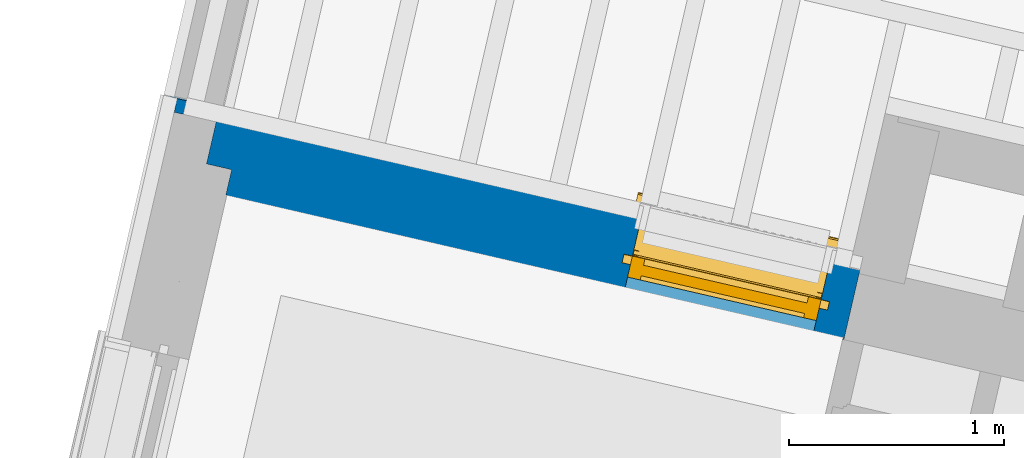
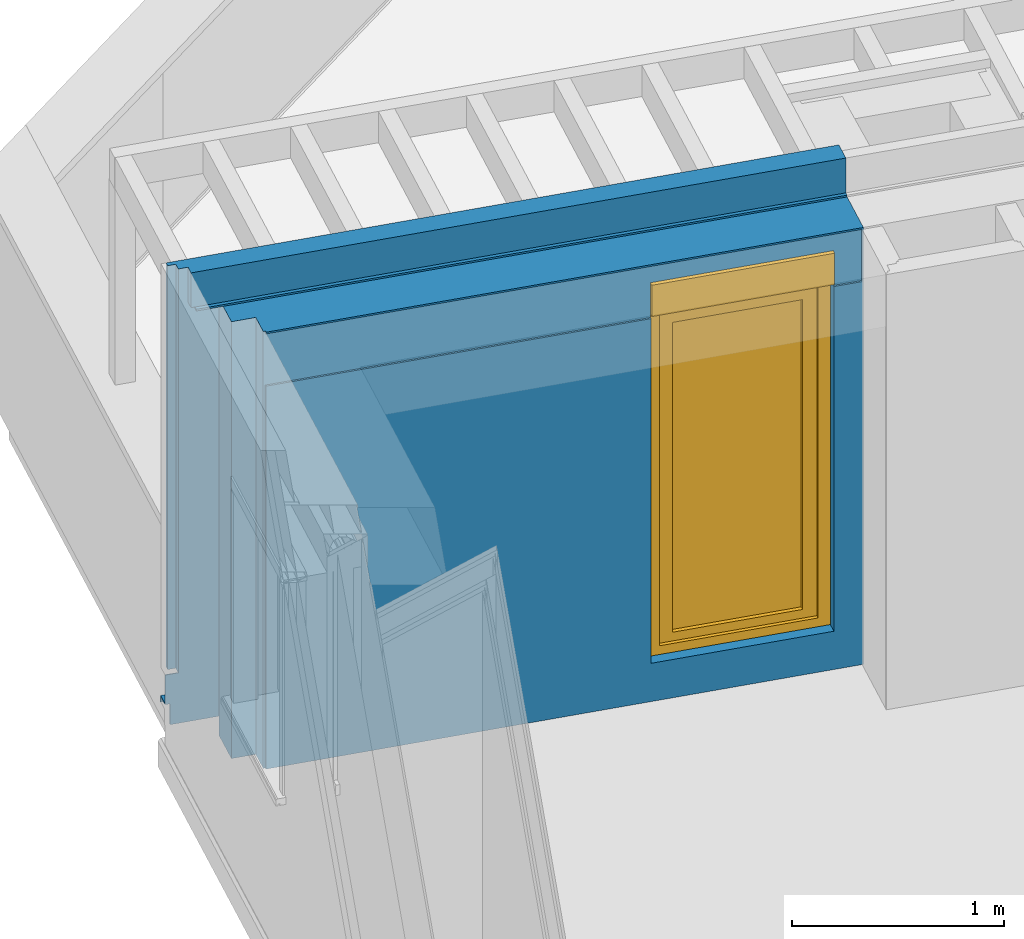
# One storey, part 15 of 62: 1 wall, 1 window, 1 opening.
"""IFC2X3 building model written with IfcOpenShell, lengths in metres."""

from ifc_helpers import new_model, entity, si_unit, converted_unit, derived_unit, money_unit, direction, frame, origin_with_axes, place, context, subcontext, project, spatial, open_shell, faceted_brep, surface_model, source, transform, mapped, material, material_list, type_object, element, fill, save


model = new_model("IFC2X3")

# Units and contexts
model_context = context("Model", 3, precision=1e-05, world=origin_with_axes(), true_north=direction((0.0, 1.0)))
body_context = subcontext(model_context, "Body", "Model", "MODEL_VIEW")
ifc_project = project(units=[si_unit("LENGTHUNIT", "METRE"), si_unit("AREAUNIT", "SQUARE_METRE"), si_unit("VOLUMEUNIT", "CUBIC_METRE"), converted_unit("PLANEANGLEUNIT", "DEGREE", entity("IfcPlaneAngleMeasure", 0.0174532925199), si_unit("PLANEANGLEUNIT", "RADIAN"), dimensions=[0, 0, 0, 0, 0, 0, 0]), si_unit("SOLIDANGLEUNIT", "STERADIAN"), money_unit("EUR"), converted_unit("TIMEUNIT", "Year", entity("IfcTimeMeasure", 31556926.0), si_unit("TIMEUNIT", "SECOND"), dimensions=[0, 0, 1, 0, 0, 0, 0]), si_unit("MASSUNIT", "GRAM", prefix="KILO"), si_unit("THERMODYNAMICTEMPERATUREUNIT", "DEGREE_CELSIUS"), si_unit("LUMINOUSINTENSITYUNIT", "LUMEN"), si_unit("ENERGYUNIT", "JOULE", prefix="MEGA"), derived_unit("THERMALCONDUCTANCEUNIT", [(si_unit("POWERUNIT", "WATT"), 1), (si_unit("LENGTHUNIT", "METRE"), -1), (si_unit("THERMODYNAMICTEMPERATUREUNIT", "KELVIN"), -1)]), derived_unit("SPECIFICHEATCAPACITYUNIT", [(si_unit("ENERGYUNIT", "JOULE"), 1), (si_unit("MASSUNIT", "GRAM", prefix="KILO"), -1), (si_unit("THERMODYNAMICTEMPERATUREUNIT", "KELVIN"), -1)]), derived_unit("MASSDENSITYUNIT", [(si_unit("MASSUNIT", "GRAM", prefix="KILO"), 1), (si_unit("VOLUMEUNIT", "CUBIC_METRE"), -1)])], contexts=[model_context])

# Site, building, storey
site_placement = place(None, origin_with_axes())
site = spatial("IfcSite", under=ifc_project, at=site_placement, Name="Site", CompositionType="ELEMENT")
building_placement = place(site_placement, origin_with_axes())
building = spatial("IfcBuilding", under=site, at=building_placement, Name="Bâtiment", CompositionType="ELEMENT")
storey_placement = place(building_placement, frame((0.0, 0.0, 8.16), z_axis=(0.0, 0.0, 1.0), x_axis=(1.0, 0.0, 0.0)))
storey = spatial("IfcBuildingStorey", under=building, at=storey_placement, Name="R+3", CompositionType="ELEMENT", Elevation=8.16)

# Wall, opening, window
ifc_material_1 = material(Name="Finition int - Plaque de plâtre")
ifc_material_2 = material(Name="Isolation - Polystyrène extrudé")
ifc_material_3 = material(Name="Bloc ELITHERM")
ifc_material_4 = material(Name="Mortier")
ifc_material_5 = material(Name="Béton cellulaire")
ifc_material_6 = material(Name="Etanchéité - Bitume")
ifc_material_7 = material(Name="Bois - Lattage")
ifc_material_8 = material(Name="Finition ext - Bardage bois")
ifc_material_9 = material(Name="Métal - Aluminium")
ifc_material_list = material_list([ifc_material_1, ifc_material_2, ifc_material_3, ifc_material_4, ifc_material_5, ifc_material_6, ifc_material_7, ifc_material_8, ifc_material_9])
wall_type = type_object("IfcWallType", Name="Mur ALKERN + planelle 21 BARDAGE TERRASSE 403 x 2720", PredefinedType="USERDEFINED")
wall_placement = place(storey_placement, frame((-4.29555109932, 14.100996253, 0.0), z_axis=(0.0, 0.0, 1.0), x_axis=(-0.974387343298, 0.224876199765, 0.0)))
wall = element("IfcWall", 1, at=wall_placement, inside=storey, type_object=wall_type, material=ifc_material_list, Name="Mue bloc ALKERN isolé", ObjectType="SOLIDWALL", context=body_context, shape_type="Brep", body=[
    faceted_brep([(1.04535731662, 0.385000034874, 0.22), (0.145357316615, 0.385000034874, 0.22), (0.145357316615, 0.38500003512, 2.2), (0.00623055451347, 0.385000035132, 2.2), (0.00623055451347, 0.385000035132, 2.5), (2.94067637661, 0.385000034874, 2.5), (2.94067637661, 0.384999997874, 2.51), (0.0, 0.384999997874, 2.51), (0.0, 0.384999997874, 0.0), (2.94067637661, 0.384999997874, 0.0), (2.94067637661, 0.385000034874, 2.2), (1.04535731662, 0.385000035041, 2.2), (1.04535731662, 0.395000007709, 0.22), (0.145357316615, 0.395000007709, 0.22), (0.145357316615, 0.395000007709, 2.2), (0.00623055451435, 0.395000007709, 2.2), (0.00623055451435, 0.395000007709, 2.50000000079), (2.94067637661, 0.395000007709, 2.50000000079), (2.94067637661, 0.395000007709, 2.51), (0.0, 0.395000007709, 2.51), (0.0, 0.395000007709, 0.0), (2.94067637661, 0.395000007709, 0.0), (2.94067637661, 0.395000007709, 2.2), (1.04535731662, 0.395000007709, 2.2)], [[[0, 1, 2, 3, 4, 5, 6, 7, 8, 9, 10, 11]], [[1, 0, 12, 13]], [[14, 2, 1, 13]], [[2, 14, 15, 3]], [[3, 15, 16, 4]], [[4, 16, 17, 5]], [[17, 18, 6, 5]], [[6, 18, 19, 7]], [[8, 7, 19, 20]], [[21, 9, 8, 20]], [[10, 9, 21, 22]], [[23, 11, 10, 22]], [[0, 11, 23, 12]], [[12, 23, 22, 21, 20, 19, 18, 17, 16, 15, 14, 13]]]),
    faceted_brep([(2.95067634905, 0.264999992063, 0.0), (2.95067634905, 0.264999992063, 2.51), (0.0, 0.264999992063, 2.51), (0.0, 0.264999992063, 0.0), (1.04535731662, 0.264999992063, 0.16), (0.145357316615, 0.264999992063, 0.16), (0.145357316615, 0.264999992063, 0.22), (0.145357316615, 0.264999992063, 2.22), (0.145357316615, 0.264999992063, 2.4), (1.04535731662, 0.264999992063, 2.4), (1.04535731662, 0.264999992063, 2.22), (1.04535731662, 0.264999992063, 0.22), (2.95067634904, 0.384999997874, 0.0), (2.95067634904, 0.384999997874, 2.51), (0.0, 0.384999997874, 2.51), (0.0, 0.384999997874, 0.0), (1.04535731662, 0.278311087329, 0.16), (0.145357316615, 0.278311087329, 0.16), (0.145357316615, 0.278311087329, 0.22), (0.145357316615, 0.384999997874, 0.22), (0.145357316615, 0.384999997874, 2.22), (0.145357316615, 0.384999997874, 2.4), (1.04535731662, 0.384999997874, 2.4), (1.04535731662, 0.278311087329, 0.22), (1.04535731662, 0.384999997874, 2.22), (1.04535731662, 0.384999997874, 0.22)], [[[0, 1, 2, 3], [4, 5, 6, 7, 8, 9, 10, 11]], [[0, 12, 13, 1]], [[14, 2, 1, 13]], [[2, 14, 15, 3]], [[3, 15, 12, 0]], [[5, 4, 16, 17]], [[6, 5, 17, 18, 19, 20, 21, 8, 7]], [[8, 21, 22, 9]], [[23, 16, 4, 11, 10, 9, 22, 24, 25]], [[15, 14, 13, 12], [25, 24, 22, 21, 20, 19]], [[23, 18, 17, 16]], [[18, 23, 25, 19]]]),
    faceted_brep([(3.07067637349, 0.0649999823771, 2.50999999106), (0.0, 0.0649999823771, 2.50999999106), (0.0, 0.0650000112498, 0.109999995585), (3.07067637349, 0.0650000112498, 0.109999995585), (1.04535731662, 0.0650000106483, 0.16), (0.145357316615, 0.0650000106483, 0.16), (0.145357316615, 0.0650000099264, 0.22), (0.145357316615, 0.0649999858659, 2.22), (1.04535731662, 0.0649999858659, 2.22), (1.04535731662, 0.0650000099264, 0.22), (3.07067637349, 0.133000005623, 2.50999999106), (0.0, 0.133000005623, 2.50999999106), (0.0, 0.264999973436, 2.50999999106), (0.0, 0.264999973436, 0.0), (0.0, 0.0649999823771, 0.0), (3.07067637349, 0.0649999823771, 0.0), (3.07067637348, 0.264999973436, 0.0), (3.07067637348, 0.264999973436, 2.50999999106), (1.04535731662, 0.264999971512, 0.16), (0.145357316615, 0.264999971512, 0.16), (0.145357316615, 0.265000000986, 0.22), (0.145357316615, 0.264999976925, 2.22), (0.145357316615, 0.264999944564, 2.4), (0.145357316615, 0.207311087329, 2.4), (0.145357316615, 0.207311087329, 2.22), (1.04535731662, 0.207311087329, 2.22), (1.04535731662, 0.265000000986, 0.22), (1.04535731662, 0.207311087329, 2.4), (1.04535731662, 0.264999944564, 2.4), (1.04535731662, 0.264999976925, 2.22)], [[[0, 1, 2, 3], [4, 5, 6, 7, 8, 9]], [[1, 0, 10, 11]], [[12, 13, 14, 2, 1, 11]], [[14, 15, 3, 2]], [[16, 17, 10, 0, 3, 15]], [[5, 4, 18, 19]], [[6, 5, 19, 20, 21, 22, 23, 24, 7]], [[25, 8, 7, 24]], [[26, 18, 4, 9, 8, 25, 27, 28, 29]], [[11, 10, 17, 12]], [[12, 17, 16, 13], [18, 26, 29, 28, 22, 21, 20, 19]], [[13, 16, 15, 14]], [[28, 27, 23, 22]], [[24, 23, 27, 25]]]),
    faceted_brep([(3.20267636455, 0.065, 2.51), (3.20267636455, 0.065, 2.52), (0.0, 0.065, 2.52), (0.0, 0.065, 2.51), (3.20267636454, 0.133, 2.52), (3.20267636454, 0.133, 2.51), (0.0, 0.133, 2.52), (0.0, 0.133, 2.51)], [[[0, 1, 2, 3]], [[4, 1, 0, 5]], [[1, 4, 6, 2]], [[3, 2, 6, 7]], [[5, 0, 3, 7]], [[4, 5, 7, 6]]]),
    faceted_brep([(3.22267636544, 0.065, 2.51999999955), (3.22267636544, 0.065, 2.72), (0.0, 0.065, 2.72), (0.0, 0.065, 2.51999999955), (3.22267636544, 0.112999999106, 2.72), (3.22267636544, 0.112999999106, 2.51999999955), (0.0, 0.112999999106, 2.72), (0.0, 0.112999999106, 2.51999999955)], [[[0, 1, 2, 3]], [[4, 1, 0, 5]], [[1, 4, 6, 2]], [[2, 6, 7, 3]], [[5, 0, 3, 7]], [[4, 5, 7, 6]]]),
    faceted_brep([(1.04535731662, 0.0550000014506, 0.16), (0.145357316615, 0.0550000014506, 0.16), (0.145357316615, 0.0550000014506, 0.22), (0.145357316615, 0.0550000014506, 0.230000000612), (0.0, 0.0550000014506, 0.230000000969), (0.0, 0.0550000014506, 0.109999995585), (3.31067636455, 0.0550000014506, 0.109999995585), (3.31067636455, 0.0550000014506, 0.229999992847), (1.04535731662, 0.0550000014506, 0.229999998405), (1.04535731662, 0.0550000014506, 0.22), (1.04535731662, 0.0649999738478, 0.16), (0.145357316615, 0.0649999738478, 0.16), (0.145357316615, 0.0649999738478, 0.22), (0.145357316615, 0.0649999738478, 0.230000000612), (0.0, 0.0649999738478, 0.230000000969), (0.0, 0.0650000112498, 0.109999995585), (3.31067636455, 0.0650000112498, 0.109999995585), (3.31067636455, 0.0649999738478, 0.229999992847), (1.04535731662, 0.0649999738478, 0.229999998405), (1.04535731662, 0.0649999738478, 0.22)], [[[0, 1, 2, 3, 4, 5, 6, 7, 8, 9]], [[1, 0, 10, 11]], [[2, 1, 11, 12, 13, 3]], [[13, 14, 4, 3]], [[14, 15, 5, 4]], [[6, 5, 15, 16]], [[7, 6, 16, 17]], [[8, 7, 17, 18]], [[19, 10, 0, 9, 8, 18]], [[10, 19, 18, 17, 16, 15, 14, 13, 12, 11]]]),
    faceted_brep([(1.04535731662, 0.024999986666, 2.22), (1.04535731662, 0.0249999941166, 0.399999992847), (3.27067636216, 0.0249999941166, 0.399999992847), (3.27067636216, 0.0249999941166, 2.72), (0.0, 0.0249999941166, 2.72), (0.0, 0.0249999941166, 0.399999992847), (0.145357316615, 0.0249999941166, 0.399999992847), (0.145357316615, 0.024999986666, 2.22), (1.04535731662, 0.0650000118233, 2.22), (1.04535731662, 0.0649999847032, 0.399999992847), (1.04535731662, 0.0600000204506, 0.399999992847), (3.27067636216, 0.0600000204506, 0.399999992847), (3.27067636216, 0.0649999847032, 0.399999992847), (3.27067636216, 0.0650000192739, 2.72), (0.0, 0.0650000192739, 2.72), (0.0, 0.0649999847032, 0.399999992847), (0.0, 0.0600000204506, 0.399999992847), (0.145357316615, 0.0600000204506, 0.399999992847), (0.145357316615, 0.0649999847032, 0.399999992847), (0.145357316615, 0.0650000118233, 2.22)], [[[0, 1, 2, 3, 4, 5, 6, 7]], [[1, 0, 8, 9, 10]], [[1, 10, 11, 2]], [[3, 2, 11, 12, 13]], [[3, 13, 14, 4]], [[5, 4, 14, 15, 16]], [[17, 6, 5, 16]], [[7, 6, 17, 18, 19]], [[0, 7, 19, 8]], [[19, 18, 15, 14, 13, 12, 9, 8]], [[10, 9, 12, 11]], [[18, 17, 16, 15]]]),
    faceted_brep([(1.04535731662, 0.0, 2.22), (1.04535731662, 0.0, 0.399999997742), (3.31067636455, 0.0, 0.399999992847), (3.31067636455, 0.0, 2.72), (0.0, 0.0, 2.72), (0.0, 0.0, 0.4), (0.145357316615, 0.0, 0.399999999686), (0.145357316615, 0.0, 2.22), (1.04535731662, 0.025, 2.22), (1.04535731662, 0.025, 0.399999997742), (3.31067636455, 0.025, 0.399999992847), (3.31067636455, 0.025, 2.72), (0.0, 0.025, 2.72), (0.0, 0.025, 0.4), (0.145357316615, 0.025, 0.399999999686), (0.145357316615, 0.025, 2.22)], [[[0, 1, 2, 3, 4, 5, 6, 7]], [[1, 0, 8, 9]], [[1, 9, 10, 2]], [[11, 3, 2, 10]], [[3, 11, 12, 4]], [[4, 12, 13, 5]], [[14, 6, 5, 13]], [[7, 6, 14, 15]], [[0, 7, 15, 8]], [[15, 14, 13, 12, 11, 10, 9, 8]]]),
    faceted_brep([(1.04535731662, -0.00268891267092, 0.22), (1.04535731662, -0.00768891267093, 0.22), (1.04535731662, -0.00768891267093, 0.235), (1.04535731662, 0.06, 0.235), (1.04535731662, 0.06, 0.4), (1.04535731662, 0.065, 0.4), (1.04535731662, 0.065, 0.23), (1.04535731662, 0.0550000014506, 0.230000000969), (1.04535731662, -0.00268891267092, 0.23), (1.04535731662, -0.00768891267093, 0.2), (1.04535731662, -0.00268891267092, 0.2), (3.33567635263, -0.00768891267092, 0.2), (3.33567635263, -0.00768891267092, 0.235), (3.33567635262, 0.06, 0.235), (3.33567635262, 0.06, 0.4), (3.33567635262, 0.065, 0.4), (3.33567635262, 0.065, 0.23), (3.33567635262, 0.0550000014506, 0.230000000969), (3.33567635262, -0.00268891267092, 0.23), (3.33567635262, -0.00268891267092, 0.2)], [[[0, 1, 2, 3, 4, 5, 6, 7, 8]], [[9, 1, 0, 10]], [[1, 9, 11, 12, 2]], [[2, 12, 13, 3]], [[3, 13, 14, 4]], [[4, 14, 15, 5]], [[5, 15, 16, 6]], [[6, 16, 17, 7]], [[7, 17, 18, 8]], [[10, 0, 8, 18, 19]], [[9, 10, 19, 11]], [[19, 18, 17, 16, 15, 14, 13, 12, 11]]]),
    faceted_brep([(0.145357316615, -0.00768891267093, 0.2), (0.145357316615, -0.00768891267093, 0.22), (0.145357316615, -0.00768891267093, 0.235), (0.0, -0.00768891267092, 0.235), (0.0, -0.00768891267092, 0.2), (0.145357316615, -0.00268891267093, 0.22), (0.145357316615, -0.00268891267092, 0.2), (0.145357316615, -0.00268891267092, 0.23), (0.145357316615, 0.0550000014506, 0.230000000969), (0.145357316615, 0.065, 0.23), (0.145357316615, 0.065, 0.4), (0.145357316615, 0.06, 0.4), (0.145357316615, 0.06, 0.235), (0.0, 0.06, 0.235), (0.0, 0.0550000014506, 0.230000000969), (0.0, -0.00268891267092, 0.23), (0.0, -0.00268891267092, 0.2), (0.0, 0.06, 0.4), (0.0, 0.065, 0.4), (0.0, 0.065, 0.23)], [[[0, 1, 2, 3, 4]], [[5, 1, 0, 6]], [[1, 5, 7, 8, 9, 10, 11, 12, 2]], [[12, 13, 3, 2]], [[14, 15, 16, 4, 3, 13, 17, 18, 19]], [[6, 0, 4, 16]], [[5, 6, 16, 15, 7]], [[7, 15, 14, 8]], [[8, 14, 19, 9]], [[9, 19, 18, 10]], [[10, 18, 17, 11]], [[11, 17, 13, 12]]]),
])
opening_placement = place(wall_placement, frame((0.595357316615, 0.0, 0.22), z_axis=(0.0, 0.0, 1.0), x_axis=(1.0, 0.0, 0.0)))
opening = element("IfcOpeningElement", 2, at=opening_placement, cuts=wall, Name="MEN 104", context=body_context, shape_type="Brep", body=[
    faceted_brep([(-0.45, 0.885000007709, 0.0), (0.45, 0.885000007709, 0.0), (0.45, 0.237311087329, 0.0), (-0.45, 0.237311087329, 0.0), (-0.45, 0.885000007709, 2.0), (0.45, 0.885000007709, 2.0), (0.45, 0.237311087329, 2.0), (-0.45, 0.237311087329, 2.0)], [[[0, 1, 2, 3]], [[0, 4, 5, 1]], [[1, 5, 6, 2]], [[3, 2, 6, 7]], [[4, 0, 3, 7]], [[5, 4, 7, 6]]]),
    faceted_brep([(-0.45, -0.410377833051, 0.0), (-0.45, -0.410377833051, 2.0), (-0.45, 0.237311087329, 2.0), (-0.45, 0.237311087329, 0.0), (0.45, -0.410377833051, 0.0), (0.45, -0.410377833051, 2.0), (0.45, 0.237311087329, 2.0), (0.45, 0.237311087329, 0.0)], [[[0, 1, 2, 3]], [[0, 4, 5, 1]], [[1, 5, 6, 2]], [[3, 2, 6, 7]], [[4, 0, 3, 7]], [[5, 4, 7, 6]]]),
    faceted_brep([(-0.45, -0.410377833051, 0.0), (-0.45, -0.410377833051, 2.0), (-0.45, 0.237311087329, 2.0), (-0.45, 0.237311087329, 0.0), (0.45, -0.410377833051, 0.0), (0.45, -0.410377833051, 2.0), (0.45, 0.237311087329, 2.0), (0.45, 0.237311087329, 0.0)], [[[0, 1, 2, 3]], [[0, 4, 5, 1]], [[1, 5, 6, 2]], [[3, 2, 6, 7]], [[4, 0, 3, 7]], [[5, 4, 7, 6]]]),
    faceted_brep([(-0.45, 0.855000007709, 2.0), (0.45, 0.855000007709, 2.0), (0.45, 0.207311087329, 2.0), (-0.45, 0.207311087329, 2.0), (-0.45, 0.855000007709, 2.18), (0.45, 0.855000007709, 2.18), (0.45, 0.207311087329, 2.18), (-0.45, 0.207311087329, 2.18)], [[[0, 1, 2, 3]], [[0, 4, 5, 1]], [[1, 5, 6, 2]], [[3, 2, 6, 7]], [[4, 0, 3, 7]], [[5, 4, 7, 6]]]),
    faceted_brep([(-0.45, -0.369377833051, 0.0), (0.45, -0.369377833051, 0.0), (0.45, 0.278311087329, 0.0), (-0.45, 0.278311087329, 0.0), (-0.45, -0.369377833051, -0.06), (0.45, -0.369377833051, -0.06), (0.45, 0.278311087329, -0.06), (-0.45, 0.278311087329, -0.06)], [[[0, 1, 2, 3]], [[0, 4, 5, 1]], [[1, 5, 6, 2]], [[3, 2, 6, 7]], [[4, 0, 3, 7]], [[5, 4, 7, 6]]]),
])
window_style = type_object("IfcWindowStyle", Name="Baie générique 2017 v2", ConstructionType="NOTDEFINED", OperationType="NOTDEFINED", ParameterTakesPrecedence=False, Sizeable=False)
shared_shape = source(origin_with_axes(), body_context, "Body", "SurfaceModel", [
    faceted_brep([(-0.45, 0.1, 0.0), (0.45, 0.1, 0.0), (0.45, 0.0, 0.0), (-0.45, 0.0, 0.0), (-0.45, 0.1, 2.0), (0.45, 0.1, 2.0), (-0.39, 0.1, 0.05), (0.39, 0.1, 0.05), (0.39, 0.1, 1.95), (-0.39, 0.1, 1.95), (0.45, 0.0, 2.0), (-0.45, 0.0, 2.0), (-0.39, 0.0, 0.05), (-0.39, 0.0, 1.95), (0.39, 0.0, 1.95), (0.39, 0.0, 0.05)], [[[0, 1, 2, 3]], [[0, 4, 5, 1], [6, 7, 8, 9]], [[1, 5, 10, 2]], [[3, 2, 10, 11], [12, 13, 14, 15]], [[4, 0, 3, 11]], [[5, 4, 11, 10]], [[7, 6, 12, 15]], [[8, 7, 15, 14]], [[9, 8, 14, 13]], [[6, 9, 13, 12]]]),
    faceted_brep([(0.39, 0.08, 1.95), (0.39, 0.08, 0.05), (-0.39, 0.08, 0.05), (-0.39, 0.08, 1.95), (0.32, 0.08, 1.88), (-0.32, 0.08, 1.88), (-0.32, 0.08, 0.1), (0.32, 0.08, 0.1), (0.39, 0.03, 1.95), (0.39, 0.03, 0.05), (-0.39, 0.03, 0.05), (-0.39, 0.03, 1.95), (0.32, 0.03, 1.88), (-0.32, 0.03, 1.88), (-0.32, 0.03, 0.1), (0.32, 0.03, 0.1)], [[[0, 1, 2, 3], [4, 5, 6, 7]], [[1, 0, 8, 9]], [[10, 2, 1, 9]], [[11, 3, 2, 10]], [[0, 3, 11, 8]], [[5, 4, 12, 13]], [[14, 6, 5, 13]], [[15, 7, 6, 14]], [[4, 7, 15, 12]], [[11, 10, 9, 8], [15, 14, 13, 12]]]),
    surface_model("IfcShellBasedSurfaceModel", [(-0.39, 0.08, 0.05), (-0.39, 0.055, 0.05), (-0.39, 0.055, 1.95), (-0.39, 0.08, 1.95)], [open_shell([[[0, 1, 2, 3]]])]),
    surface_model("IfcShellBasedSurfaceModel", [(0.39, 0.08, 0.05), (0.39, 0.055, 0.05), (0.39, 0.055, 1.95), (0.39, 0.08, 1.95)], [open_shell([[[0, 1, 2, 3]]])]),
    surface_model("IfcShellBasedSurfaceModel", [(-0.39, 0.08, 0.05), (-0.39, 0.055, 0.05), (0.39, 0.055, 0.05), (0.39, 0.08, 0.05)], [open_shell([[[0, 1, 2, 3]]])]),
    surface_model("IfcShellBasedSurfaceModel", [(-0.39, 0.08, 1.95), (-0.39, 0.055, 1.95), (0.39, 0.055, 1.95), (0.39, 0.08, 1.95)], [open_shell([[[0, 1, 2, 3]]])]),
    surface_model("IfcShellBasedSurfaceModel", [(-0.39, 0.055, 0.05), (-0.39, 0.03, 0.05), (-0.39, 0.03, 1.95), (-0.39, 0.055, 1.95)], [open_shell([[[0, 1, 2, 3]]])]),
    surface_model("IfcShellBasedSurfaceModel", [(0.39, 0.055, 0.05), (0.39, 0.03, 0.05), (0.39, 0.03, 1.95), (0.39, 0.055, 1.95)], [open_shell([[[0, 1, 2, 3]]])]),
    surface_model("IfcShellBasedSurfaceModel", [(-0.39, 0.055, 0.05), (-0.39, 0.03, 0.05), (0.39, 0.03, 0.05), (0.39, 0.055, 0.05)], [open_shell([[[0, 1, 2, 3]]])]),
    surface_model("IfcShellBasedSurfaceModel", [(-0.39, 0.055, 1.95), (-0.39, 0.03, 1.95), (0.39, 0.03, 1.95), (0.39, 0.055, 1.95)], [open_shell([[[0, 1, 2, 3]]])]),
    faceted_brep([(-0.32, 0.0575, 0.1), (0.32, 0.0575, 0.1), (0.32, 0.0525, 0.1), (-0.32, 0.0525, 0.1), (-0.32, 0.0575, 1.88), (0.32, 0.0575, 1.88), (0.32, 0.0525, 1.88), (-0.32, 0.0525, 1.88)], [[[0, 1, 2, 3]], [[0, 4, 5, 1]], [[1, 5, 6, 2]], [[3, 2, 6, 7]], [[4, 0, 3, 7]], [[5, 4, 7, 6]]]),
    faceted_brep([(-0.45, -0.03, 0.0), (-0.425, -0.03, 0.0), (-0.425, -0.03, 2.0), (-0.45, -0.03, 2.0), (-0.45, -0.002, 0.0), (-0.425, -0.002, 0.0), (-0.425, -0.004, 0.0), (-0.448, -0.004, 0.0), (-0.448, -0.028, 0.0), (-0.425, -0.028, 0.0), (-0.425, -0.028, 2.0), (-0.448, -0.028, 2.0), (-0.448, -0.004, 2.0), (-0.425, -0.004, 2.0), (-0.425, -0.002, 2.0), (-0.45, -0.002, 2.0)], [[[0, 1, 2, 3]], [[0, 4, 5, 6, 7, 8, 9, 1]], [[1, 9, 10, 2]], [[3, 2, 10, 11, 12, 13, 14, 15]], [[4, 0, 3, 15]], [[5, 4, 15, 14]], [[6, 5, 14, 13]], [[7, 6, 13, 12]], [[8, 7, 12, 11]], [[9, 8, 11, 10]]]),
    faceted_brep([(0.45, -0.03, 0.0), (0.45, -0.03, 2.0), (0.425, -0.03, 2.0), (0.425, -0.03, 0.0), (0.45, -0.002, 0.0), (0.45, -0.002, 2.0), (0.425, -0.002, 2.0), (0.425, -0.004, 2.0), (0.448, -0.004, 2.0), (0.448, -0.028, 2.0), (0.425, -0.028, 2.0), (0.425, -0.028, 0.0), (0.448, -0.028, 0.0), (0.448, -0.004, 0.0), (0.425, -0.004, 0.0), (0.425, -0.002, 0.0)], [[[0, 1, 2, 3]], [[4, 5, 1, 0]], [[1, 5, 6, 7, 8, 9, 10, 2]], [[3, 2, 10, 11]], [[0, 3, 11, 12, 13, 14, 15, 4]], [[15, 6, 5, 4]], [[14, 7, 6, 15]], [[13, 8, 7, 14]], [[12, 9, 8, 13]], [[11, 10, 9, 12]]]),
    faceted_brep([(0.448, -0.028, 2.0), (-0.448, -0.028, 2.0), (-0.448, -0.028, 2.178), (0.448, -0.028, 2.178), (0.448, -0.03, 2.0), (-0.448, -0.03, 2.0), (-0.448, -0.03, 2.18), (-0.448, 0.17, 2.18), (-0.448, 0.17, 2.0), (-0.448, 0.168, 2.0), (-0.448, 0.168, 2.178), (0.448, 0.168, 2.178), (0.448, 0.168, 2.0), (0.448, 0.17, 2.0), (0.448, 0.17, 2.18), (0.448, -0.03, 2.18)], [[[0, 1, 2, 3]], [[4, 5, 1, 0]], [[1, 5, 6, 7, 8, 9, 10, 2]], [[3, 2, 10, 11]], [[0, 3, 11, 12, 13, 14, 15, 4]], [[15, 6, 5, 4]], [[14, 7, 6, 15]], [[13, 8, 7, 14]], [[12, 9, 8, 13]], [[11, 10, 9, 12]]]),
    faceted_brep([(0.448, 0.0724697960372, 2.07436337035), (0.448, 0.08, 2.09), (0.448, 0.0724697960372, 2.10563662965), (0.448, 0.0555495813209, 2.10949855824), (0.448, 0.041980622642, 2.09867767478), (0.448, 0.041980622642, 2.08132232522), (0.448, 0.0555495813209, 2.07050144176), (-0.448, 0.0724697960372, 2.07436337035), (-0.448, 0.08, 2.09), (-0.448, 0.0724697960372, 2.10563662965), (-0.448, 0.0555495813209, 2.10949855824), (-0.448, 0.041980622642, 2.09867767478), (-0.448, 0.041980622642, 2.08132232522), (-0.448, 0.0555495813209, 2.07050144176)], [[[0, 1, 2, 3, 4, 5, 6]], [[0, 7, 8, 1]], [[1, 8, 9, 2]], [[2, 9, 10, 3]], [[3, 10, 11, 4]], [[4, 11, 12, 5]], [[5, 12, 13, 6]], [[6, 13, 7, 0]], [[7, 13, 12, 11, 10, 9, 8]]]),
    faceted_brep([(0.438, 0.130275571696, 2.05615706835), (0.438, 0.138, 2.09), (0.438, 0.130275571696, 2.12384293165), (0.438, 0.108632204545, 2.15098285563), (0.438, 0.0773566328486, 2.16604437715), (0.438, 0.0426433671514, 2.16604437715), (0.438, 0.011367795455, 2.15098285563), (0.438, -0.0102755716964, 2.12384293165), (0.438, -0.018, 2.09), (0.438, -0.0102755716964, 2.05615706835), (0.438, 0.011367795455, 2.02901714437), (0.438, 0.0426433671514, 2.01395562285), (0.438, 0.0773566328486, 2.01395562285), (0.438, 0.108632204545, 2.02901714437), (-0.438, 0.130275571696, 2.05615706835), (-0.438, 0.138, 2.09), (-0.438, 0.130275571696, 2.12384293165), (-0.438, 0.108632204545, 2.15098285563), (-0.438, 0.0773566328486, 2.16604437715), (-0.438, 0.0426433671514, 2.16604437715), (-0.438, 0.011367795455, 2.15098285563), (-0.438, -0.0102755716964, 2.12384293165), (-0.438, -0.018, 2.09), (-0.438, -0.0102755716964, 2.05615706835), (-0.438, 0.011367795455, 2.02901714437), (-0.438, 0.0426433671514, 2.01395562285), (-0.438, 0.0773566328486, 2.01395562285), (-0.438, 0.108632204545, 2.02901714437)], [[[0, 1, 2, 3, 4, 5, 6, 7, 8, 9, 10, 11, 12, 13]], [[0, 14, 15, 1]], [[1, 15, 16, 2]], [[2, 16, 17, 3]], [[3, 17, 18, 4]], [[4, 18, 19, 5]], [[5, 19, 20, 6]], [[6, 20, 21, 7]], [[7, 21, 22, 8]], [[8, 22, 23, 9]], [[9, 23, 24, 10]], [[10, 24, 25, 11]], [[11, 25, 26, 12]], [[12, 26, 27, 13]], [[13, 27, 14, 0]], [[14, 27, 26, 25, 24, 23, 22, 21, 20, 19, 18, 17, 16, 15]]]),
    faceted_brep([(0.45, 0.17, 2.0), (0.448, 0.17, 2.0), (0.448, 0.17, 2.18), (0.45, 0.17, 2.18), (0.45, -0.03, 2.0), (0.448, -0.03, 2.0), (0.448, -0.03, 2.18), (0.45, -0.03, 2.18)], [[[0, 1, 2, 3]], [[4, 5, 1, 0]], [[1, 5, 6, 2]], [[3, 2, 6, 7]], [[0, 3, 7, 4]], [[7, 6, 5, 4]]]),
    faceted_brep([(-0.448, 0.17, 2.0), (-0.45, 0.17, 2.0), (-0.45, 0.17, 2.18), (-0.448, 0.17, 2.18), (-0.448, -0.03, 2.0), (-0.45, -0.03, 2.0), (-0.45, -0.03, 2.18), (-0.448, -0.03, 2.18)], [[[0, 1, 2, 3]], [[4, 5, 1, 0]], [[1, 5, 6, 2]], [[3, 2, 6, 7]], [[0, 3, 7, 4]], [[7, 6, 5, 4]]]),
    faceted_brep([(0.448, -0.004, 2.0), (-0.448, -0.004, 2.0), (-0.448, 0.168, 2.0), (0.448, 0.168, 2.0), (0.448, -0.004, 2.002), (-0.448, -0.004, 2.002), (-0.448, 0.168, 2.002), (0.448, 0.168, 2.002)], [[[0, 1, 2, 3]], [[4, 5, 1, 0]], [[1, 5, 6, 2]], [[3, 2, 6, 7]], [[0, 3, 7, 4]], [[7, 6, 5, 4]]]),
    faceted_brep([(-0.438, -0.006, 2.0), (-0.438, -0.006, 2.09), (0.438, -0.006, 2.09), (0.438, -0.006, 2.0), (-0.438, -0.026, 2.0), (-0.438, -0.026, 2.09), (0.438, -0.026, 2.09), (0.438, -0.026, 2.0)], [[[0, 1, 2, 3]], [[1, 0, 4, 5]], [[2, 1, 5, 6]], [[3, 2, 6, 7]], [[4, 0, 3, 7]], [[5, 4, 7, 6]]]),
    faceted_brep([(0.45, -0.00167949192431, -0.01), (0.45, 0.0, -0.00373205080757), (0.49, 0.0, -0.00373205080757), (0.49, 0.001, 0.0), (-0.49, 0.001, 0.0), (-0.49, 0.0, -0.00373205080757), (-0.45, 0.0, -0.00373205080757), (-0.45, -0.00167949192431, -0.01), (0.45, -0.009, -0.0173205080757), (0.45, -0.019, -0.02), (0.45, -0.245, -0.02), (0.45, -0.245, -0.06), (0.45, 0.0, -0.06), (0.49, 0.0, -0.06), (0.49, 0.041, -0.06), (0.49, 0.041, 0.0), (-0.49, 0.041, 0.0), (-0.49, 0.041, -0.06), (-0.49, 0.0, -0.06), (-0.45, 0.0, -0.06), (-0.45, -0.245, -0.02), (-0.45, -0.019, -0.02), (-0.45, -0.009, -0.0173205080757), (-0.45, -0.245, -0.06), (-0.49, -0.245, -0.02), (-0.49, -0.285, -0.02), (0.49, -0.285, -0.02), (0.49, -0.245, -0.02), (0.49, -0.245, -0.06), (0.49, -0.275, -0.06), (-0.49, -0.275, -0.06), (-0.49, -0.245, -0.06), (-0.49, -0.295, -0.03), (-0.49, -0.292071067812, -0.0229289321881), (-0.49, -0.275, -0.05), (-0.49, -0.285, -0.05), (-0.49, -0.285, -0.06), (-0.49, -0.295, -0.06), (0.49, -0.292071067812, -0.0229289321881), (0.49, -0.295, -0.03), (0.49, -0.295, -0.06), (0.49, -0.285, -0.06), (0.49, -0.285, -0.05), (0.49, -0.275, -0.05)], [[[0, 1, 2, 3, 4, 5, 6, 7]], [[1, 0, 8, 9, 10, 11, 12]], [[13, 2, 1, 12]], [[2, 13, 14, 15, 3]], [[16, 4, 3, 15]], [[4, 16, 17, 18, 5]], [[5, 18, 19, 6]], [[20, 21, 22, 7, 6, 19, 23]], [[8, 0, 7, 22]], [[9, 8, 22, 21]], [[10, 9, 21, 20, 24, 25, 26, 27]], [[10, 27, 28, 11]], [[11, 28, 29, 30, 31, 23, 19, 18, 17, 14, 13, 12]], [[17, 16, 15, 14]], [[20, 23, 31, 24]], [[32, 33, 25, 24, 31, 30, 34, 35, 36, 37]], [[25, 33, 38, 26]], [[28, 27, 26, 38, 39, 40, 41, 42, 43, 29]], [[34, 30, 29, 43]], [[33, 32, 39, 38]], [[35, 34, 43, 42]], [[36, 35, 42, 41]], [[37, 36, 41, 40]], [[32, 37, 40, 39]]]),
])
window_placement = place(opening_placement, frame((-0.45, 0.0, 0.0), z_axis=(0.0, 0.0, 1.0), x_axis=(1.0, 0.0, 0.0)))
window = element("IfcWindow", 3, at=window_placement, inside=storey, type_object=window_style, Name="MEN 104", ObjectType="WINDOW", OverallHeight=2.0, OverallWidth=0.9, context=body_context, shape_type="MappedRepresentation", body=[
    mapped(shared_shape, transform((0.45, 0.237311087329, 0.0))),
])
fill(opening, window)

save(model, "model.ifc")
